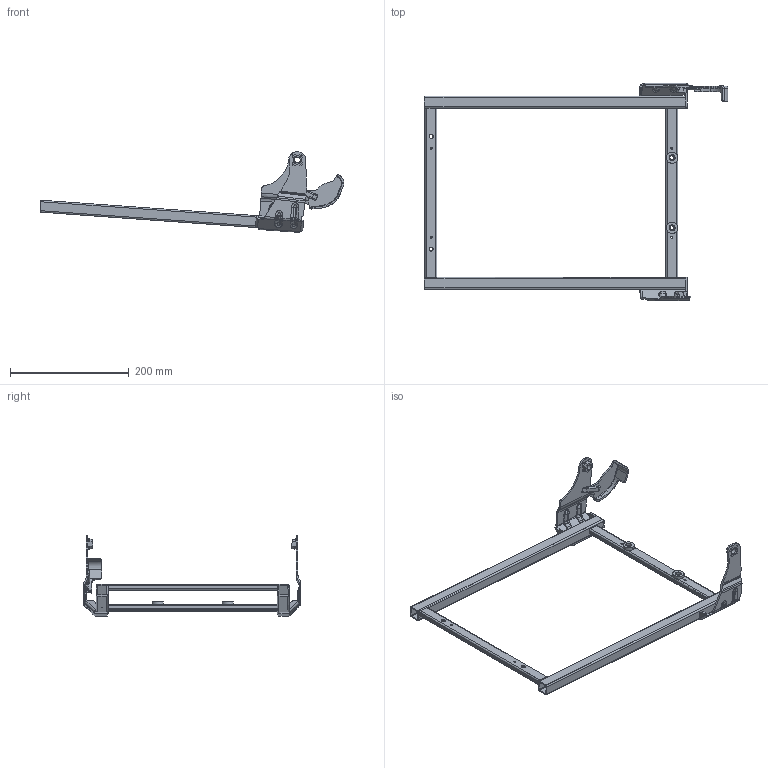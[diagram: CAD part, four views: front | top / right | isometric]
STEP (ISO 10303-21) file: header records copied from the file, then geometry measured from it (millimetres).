
FILE_DESCRIPTION(('CATIA V5 STEP Exchange'),'2;1');
FILE_NAME('E:\项目\H4-2.2座椅\07-3D+2D\副驾驶图纸\H4A-6901100.stp','2025-04-21T01:47:18+00:00',('none'),('none'),'CATIA Version 5 Release 20 GA (IN-10)','CATIA V5 STEP AP214','none');
FILE_SCHEMA(('AUTOMOTIVE_DESIGN { 1 0 10303 214 1 1 1 1 }'));
Length unit declared in the file: millimetre
Products named in the file (1): H4A-6901100
Bounding box: 511.17 x 366.5 x 135.98 mm (x, y, z)
Volume: 248221.1 mm3; surface area: 231245.1 mm2
Topology: 11 solids, 11 shells, 695 faces, 1824 edges, 1128 vertices
Faces by surface type: cylinder 296, plane 223, bspline 85, torus 35, sphere 24, revolution 16, cone 14, extrusion 2
Entity records: 26959 total; most frequent: CARTESIAN_POINT 11494, ORIENTED_EDGE 3600, DIRECTION 2345, EDGE_CURVE 1800, VERTEX_POINT 1119, AXIS2_PLACEMENT_3D 970, VECTOR 814, LINE 812
